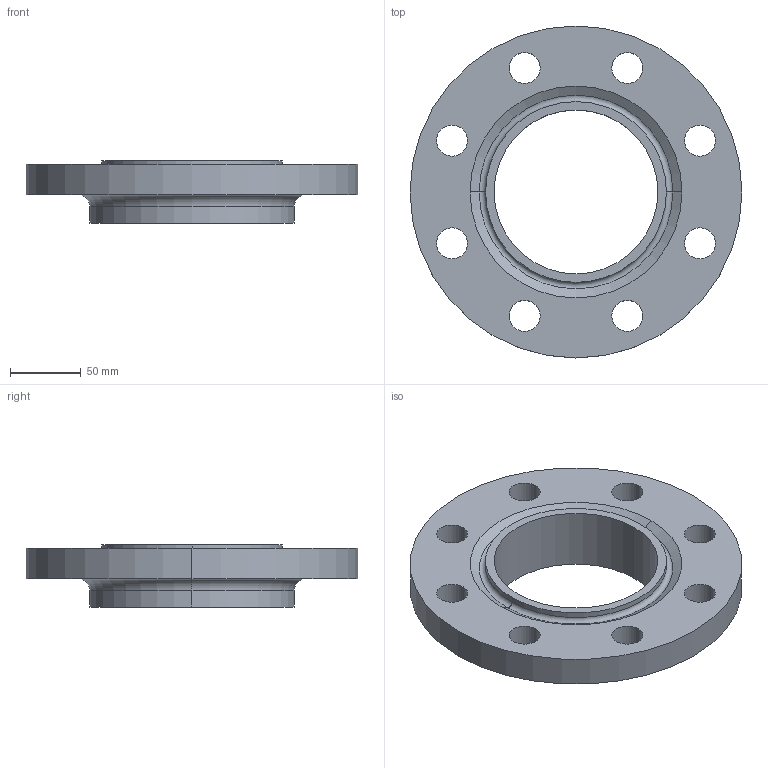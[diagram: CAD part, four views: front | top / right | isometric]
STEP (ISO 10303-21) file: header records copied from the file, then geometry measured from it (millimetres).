
FILE_DESCRIPTION (( 'STEP AP214' ), '1' );
FILE_NAME ('PN40 DN100 Type 12 - Type H Face.STEP', '2019-01-02T00:20:05', ( '' ), ( '' ), 'SwSTEP 2.0', 'SolidWorks 2019', '' );
FILE_SCHEMA (( 'AUTOMOTIVE_DESIGN' ));
Length unit declared in the file: millimetre
Products named in the file (1): PN40 DN100 Type 12 - Type H Face
Bounding box: 235 x 235 x 44 mm (x, y, z)
Volume: 757505.9 mm3; surface area: 113764 mm2
Topology: 1 solids, 1 shells, 34 faces, 84 edges, 54 vertices
Faces by surface type: cylinder 24, torus 4, plane 4, cone 2
Entity records: 1108 total; most frequent: DIRECTION 212, CARTESIAN_POINT 173, ORIENTED_EDGE 168, AXIS2_PLACEMENT_3D 93, EDGE_CURVE 84, CIRCLE 58, EDGE_LOOP 54, VERTEX_POINT 54
